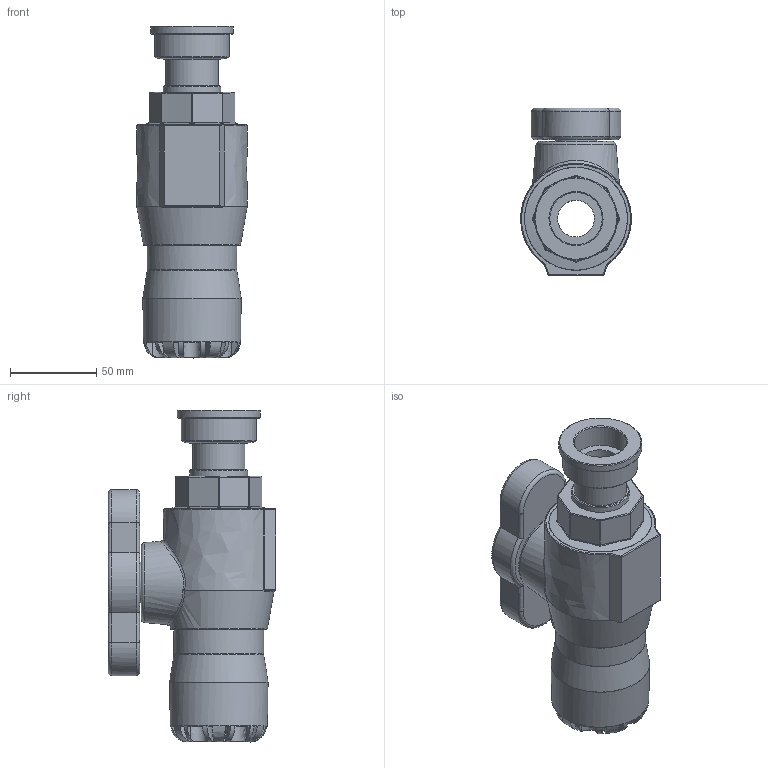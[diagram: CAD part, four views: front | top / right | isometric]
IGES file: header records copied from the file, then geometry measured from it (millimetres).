
Global section: file name: 0371016S00032010_0371016SF0032010; native system: Autodesk Inventor 2019; preprocessor: unknown; author: Lenora; date: 20220418.194428; units: millimetre
Bounding box: 64 x 97 x 192 mm (x, y, z)
Volume: 414904.7 mm3; surface area: 73357.4 mm2
Topology: 1 solids, 1 shells, 225 faces, 557 edges, 344 vertices
Faces by surface type: bspline 225
